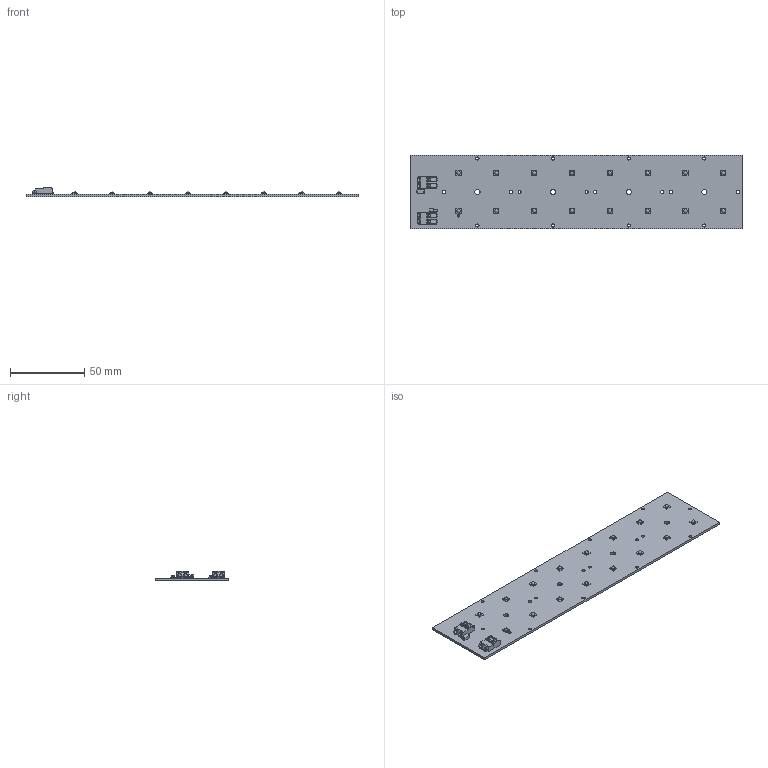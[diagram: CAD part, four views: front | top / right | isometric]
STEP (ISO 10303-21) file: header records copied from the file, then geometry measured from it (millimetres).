
FILE_DESCRIPTION((''),'2;1');
FILE_NAME('16208873_RLE_2X8_AMB_EXC2_OTD','2021-11-08T14:28:22',('Bernhard.Fink'),(''),'CREO PARAMETRIC BY PTC INC, 2019164','CREO PARAMETRIC BY PTC INC, 2019164','');
FILE_SCHEMA(('CONFIG_CONTROL_DESIGN'));
Length unit declared in the file: millimetre
Products named in the file (1): 16208873_RLE_2X8_AMB_EXC2_OTD
Bounding box: 223 x 49.5 x 6.15 mm (x, y, z)
Volume: 18873.5 mm3; surface area: 24443.9 mm2
Topology: 1 solids, 1 shells, 603 faces, 1698 edges, 1108 vertices
Faces by surface type: plane 375, cylinder 204, sphere 24
Entity records: 19494 total; most frequent: CARTESIAN_POINT 3575, ORIENTED_EDGE 3324, DIRECTION 3276, EDGE_CURVE 1662, VECTOR 1178, LINE 1178, VERTEX_POINT 1108, AXIS2_PLACEMENT_3D 1049
